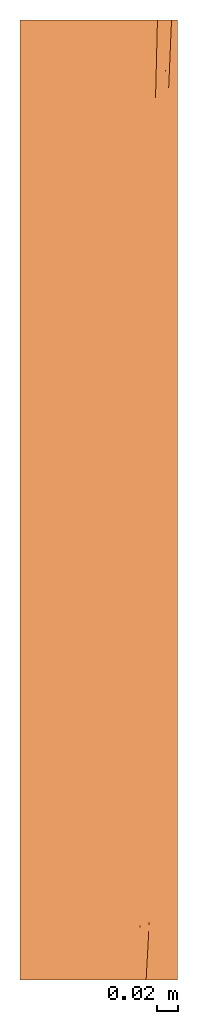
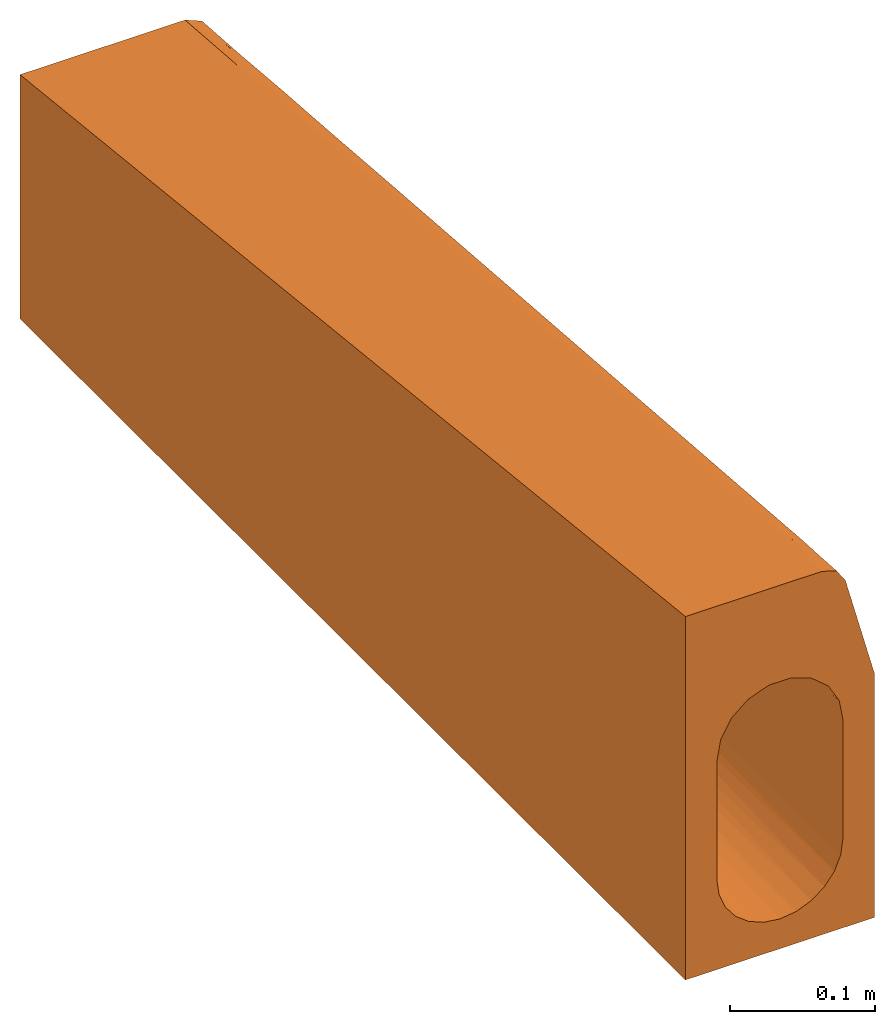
# One storey: 1 proxy.
"""IFC2X3 building model written with IfcOpenShell, lengths in millimetres."""

from ifc_helpers import new_model, entity, si_unit, converted_unit, direction, frame, origin, place, context, subcontext, project, spatial, faceted_brep, source, transform, mapped, material, element, save


model = new_model("IFC2X3")

# Units and contexts
model_context = context("Model", 3, precision=1e-06, world=origin(), true_north=direction((2.0, 6.12303176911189e-17, 1.0)))
context_of_model = context(None, 3, precision=1e-06, world=origin(), true_north=direction((2.0, 6.12303176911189e-17, 1.0)))
body_context = subcontext(model_context, "Body", "Model", "MODEL_VIEW")
ifc_project = project(units=[si_unit("LENGTHUNIT", "METRE", prefix="MILLI"), si_unit("AREAUNIT", "SQUARE_METRE", prefix="MILLI"), si_unit("VOLUMEUNIT", "CUBIC_METRE", prefix="MILLI"), converted_unit("PLANEANGLEUNIT", "DEGREE", entity("IfcRatioMeasure", 0.0174532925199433), si_unit("PLANEANGLEUNIT", "RADIAN"), dimensions=[0, 0, 0, 0, 0, 0, 0]), si_unit("TIMEUNIT", "SECOND")], contexts=[model_context, context_of_model])

# Site, building, storey
site_placement = place(None, origin())
site = spatial("IfcSite", under=ifc_project, at=site_placement, Name="Default", CompositionType="ELEMENT")
building_placement = place(site_placement, origin())
building = spatial("IfcBuilding", under=site, at=building_placement, CompositionType="ELEMENT")
storey_placement = place(building_placement, frame((0.0, 0.0, -300.0)))
storey = spatial("IfcBuildingStorey", under=building, at=storey_placement, Name="T.O. Fnd. Wall", CompositionType="ELEMENT", Elevation=-300.0)

# Proxy
ifc_material = material(Name="ACO Polymer Concrete.")
shared_shape = source(origin(), body_context, "Body", "Brep", [
    faceted_brep([(-75.0, 915.0, -180.0), (-25.0, 915.0, -148.30127018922), (-12.9409522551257, 915.0, -153.296291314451), (-35.3553390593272, 915.0, -140.355339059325), (0.0, 915.0, -155.0), (-43.3012701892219, 915.0, -130.0), (-48.2962913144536, 915.0, -117.940952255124), (-50.0, 915.0, -105.0), (-75.0, 915.0, 25.0), (12.9409522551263, 915.0, -153.296291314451), (75.0, 915.0, -180.0), (25.0, 915.0, -148.301270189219), (35.3553390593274, 915.0, -140.355339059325), (43.3012701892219, 915.0, -130.0), (48.2962913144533, 915.0, -117.940952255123), (50.0, 915.0, -105.0), (-46.9862724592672, 915.0, -87.9035032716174), (-38.3115696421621, 915.0, -72.8717627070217), (-8.68541109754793, 915.0, -55.7601418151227), (-16.8455239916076, 915.0, -58.7310632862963), (56.0, 915.0, 25.0), (-25.0056368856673, 915.0, -61.7019847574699), (-31.6586032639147, 915.0, -67.2868737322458), (8.67375429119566, 915.0, -55.7580870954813), (75.0, 915.0, 6.0), (46.9852169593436, 915.0, -87.9006027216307), (42.6413507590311, 915.0, -80.3777885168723), (38.2974845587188, 915.0, -72.8549743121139), (25.0027248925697, 915.0, -61.7003031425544), (16.8382395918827, 915.0, -58.7291951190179), (59.3587572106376, 915.0, 23.6087572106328), (62.7175144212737, 915.0, 22.2175144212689), (75.0, 0.0, -180.0), (25.0, 0.0, -148.301270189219), (12.9409522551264, 0.0, -153.296291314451), (35.3553390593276, 0.0, -140.355339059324), (0.0, 0.0, -155.0), (50.0, 0.0, -105.0), (48.2962913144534, 0.0, -117.940952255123), (75.0, 0.0, 25.0), (43.3012701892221, 0.0, -130.0), (-12.9409522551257, 0.0, -153.296291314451), (-75.0, 0.0, -180.0), (-25.0, 0.0, -148.30127018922), (-35.3553390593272, 0.0, -140.355339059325), (-43.3012701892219, 0.0, -130.0), (-48.2962913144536, 0.0, -117.940952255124), (-50.0, 0.0, -105.0), (-50.0, 0.0, -5.0), (-75.0, 0.0, 125.0), (50.0, 0.0, -5.0), (46.9852169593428, 0.0, 12.0993972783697), (38.2974845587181, 0.0, 27.1450256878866), (42.6413507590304, 0.0, 19.6222114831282), (51.9784586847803, 0.0, 110.917561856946), (50.2819277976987, 0.0, 113.456599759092), (33.6258679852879, 0.0, 125.0), (8.67375429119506, 0.0, 44.2419129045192), (25.002724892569, 0.0, 38.2996968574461), (-38.3115696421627, 0.0, 27.1282372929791), (-31.6586032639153, 0.0, 32.713126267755), (-25.0056368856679, 0.0, 38.2980152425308), (-46.9862724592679, 0.0, 12.0964967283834), (16.838239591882, 0.0, 41.2708048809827), (-16.8455239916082, 0.0, 41.2689367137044), (-8.68541109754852, 0.0, 44.2398581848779), (73.0181625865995, 836.231110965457, 15.0319560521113), (71.0363253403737, 757.462228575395, 24.063911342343), (50.0, 228.749977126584, -29.9999975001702), (50.0, 457.499954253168, -54.9999950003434), (46.1939766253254, 457.499999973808, -124.134171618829), (6.52630960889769, 663.022798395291, -154.572243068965), (19.1341716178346, 457.499999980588, -151.193976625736), (39.6676670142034, 347.33270495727, -135.4380714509), (39.6676670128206, 663.022798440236, -135.438071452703), (30.4380714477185, 567.667295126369, -144.667667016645), (30.4380714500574, 251.977201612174, -144.66766701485), (-39.6676670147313, 251.977201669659, -135.438071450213), (-30.4380714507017, 347.332704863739, -144.667667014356), (-39.6676670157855, 567.66729518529, -135.438071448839), (-30.4380714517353, 663.022798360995, -144.667667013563), (6.52630961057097, 347.332704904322, -154.572243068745), (49.0392640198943, 307.805136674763, -114.754516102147), (49.1517479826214, 621.55277183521, -114.170914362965), (50.0, 457.5, -105.0), (-6.52630961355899, 567.667295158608, -154.572243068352), (-6.52630961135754, 251.977201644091, -154.572243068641), (-19.1341716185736, 457.499999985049, -151.19397662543), (-46.1939766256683, 457.499999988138, -124.134171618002), (-49.1517479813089, 293.447228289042, -114.170914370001), (-50.0, 457.5, -105.0), (-49.0392640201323, 607.194863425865, -114.754516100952), (-50.0, 686.24998815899, -79.9999987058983), (-50.0, 457.499976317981, -54.9999974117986), (-45.6188229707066, 151.466522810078, -1.08611000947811), (-40.5314068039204, 151.657751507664, 7.70344687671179), (-26.1387748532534, 318.90882077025, 2.77009687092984), (-22.6236938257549, 467.84801880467, -11.5420481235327), (-17.1054992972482, 291.971562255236, 10.073535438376), (-13.7188353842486, 139.904226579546, 27.7910349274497), (-0.00592028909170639, 207.683537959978, 22.3023452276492), (-45.4945220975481, 457.499999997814, -34.2575686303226), (-43.3061058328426, 292.006215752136, -11.9216250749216), (-48.4958178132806, 343.124993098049, -30.3280785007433), (-50.0, 228.75001184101, -30.0000012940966), (-48.8159826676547, 156.464847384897, -11.2833370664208), (-43.3061058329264, 622.993784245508, -48.0951298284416), (-32.147444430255, 707.349732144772, -44.0105274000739), (-39.8007023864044, 438.609878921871, -22.6715985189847), (-25.3674693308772, 643.28302837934, -32.2171337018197), (-17.1054992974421, 623.028437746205, -26.1075438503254), (-23.0848310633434, 162.43984704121, 21.5989060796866), (-11.6387079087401, 459.765322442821, -6.62103534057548), (-32.1474444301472, 207.650267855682, 10.6014359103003), (-48.480687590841, 569.39175700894, -54.9965620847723), (-48.7962684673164, 756.78174927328, -76.8031513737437), (-0.00592028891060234, 707.316462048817, -32.3023459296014), (-11.4445809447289, 757.301188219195, -39.0925615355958), (-21.136028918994, 769.014220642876, -43.7322665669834), (13.9123277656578, 138.301091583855, 27.9106108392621), (8.58844442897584, 254.601193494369, 16.4315966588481), (32.1377640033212, 707.304955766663, -43.9975095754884), (40.5304276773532, 763.475035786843, -59.1604746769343), (45.6178952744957, 763.506975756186, -67.9737094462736), (43.2998575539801, 623.037939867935, -48.0891315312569), (48.4796782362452, 345.4949095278, -30.5229614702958), (48.7969658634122, 158.134389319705, -11.3803314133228), (48.8157785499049, 758.539283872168, -77.0829007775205), (48.4941215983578, 571.874971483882, -55.3213200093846), (45.5871076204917, 150.924354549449, -0.9563146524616), (40.4820866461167, 152.149530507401, 7.71785656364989), (39.7952176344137, 476.335106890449, -26.7873624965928), (43.2998575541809, 291.962060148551, -11.9059752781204), (32.137764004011, 207.695044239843, 10.6046665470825), (25.8175834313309, 615.239692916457, -29.4204785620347), (22.5191408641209, 757.327118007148, -43.1262135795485), (12.9353441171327, 769.015532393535, -40.7476197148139), (-45.5865651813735, 764.128581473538, -67.9719660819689), (23.2584450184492, 163.972412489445, 21.3406150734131), (21.094224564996, 457.500000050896, -9.66752058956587), (17.0983533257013, 291.968941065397, 10.0764229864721), (10.7993315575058, 482.495504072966, -8.91193304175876), (26.1823421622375, 322.161499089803, 2.38786469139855), (32.1377672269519, 457.500000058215, -16.6964242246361), (50.0, 686.249977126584, -79.9999975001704), (45.4922456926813, 457.500000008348, -34.2525765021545), (-32.1474449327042, 457.500000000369, -16.7045461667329), (-40.4806991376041, 762.687916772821, -59.0057362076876), (8.26676737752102, 643.279561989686, -25.9919069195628), (-0.00592208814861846, 457.500000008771, -5.00000035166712), (17.0983533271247, 623.031058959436, -26.1052292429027), (35.5519723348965, 78.7688871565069, 116.391378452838), (52.1338887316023, 63.0458966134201, 107.597465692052), (53.9602959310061, 78.7688823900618, 101.885606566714), (54.5320809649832, 337.103096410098, 83.26796198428), (58.2539181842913, 386.287783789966, 75.0924840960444), (56.2248512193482, 410.153550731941, 75.3669248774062), (55.3899180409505, 718.077788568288, 46.0479049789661), (52.1477913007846, 757.462225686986, 42.2172430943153), (50.2216869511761, 678.693338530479, 50.8258646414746), (65.8908304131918, 580.610878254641, 48.0495233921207), (67.0726506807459, 599.92445715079, 42.1278226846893), (66.9289889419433, 635.472995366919, 43.0244548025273), (71.1069135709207, 796.846673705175, 24.8545550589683), (69.1119382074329, 716.253766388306, 33.6495144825), (55.6926406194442, 196.922223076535, 92.2530895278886), (58.0535050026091, 283.226475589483, 82.1778140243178), (54.6716723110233, 236.306669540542, 91.3862488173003), (57.1335388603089, 783.929985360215, 38.8207670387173), (61.9269278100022, 810.397740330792, 34.4255659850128), (59.2869844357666, 851.917286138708, 31.2690569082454), (61.4321129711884, 421.893895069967, 67.0264374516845), (63.2214213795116, 477.368954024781, 59.7592497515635), (60.5842795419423, 477.119202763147, 65.0164918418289), (52.6756030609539, 532.053585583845, 65.8583849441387), (53.4185826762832, 480.717038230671, 70.6622824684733), (56.1699948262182, 531.461898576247, 64.3192467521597), (64.5550694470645, 776.44697706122, 35.8983010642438), (66.5708123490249, 847.088708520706, 27.9494503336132), (56.9645531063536, 312.161540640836, 82.4490081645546), (59.7696958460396, 350.681667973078, 74.613400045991), (59.905808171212, 315.075549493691, 74.7897384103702), (61.6975187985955, 386.287776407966, 66.6242594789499), (44.0425181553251, 70.8468225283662, 115.149727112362), (48.8442698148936, 118.835351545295, 107.456536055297), (46.5189846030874, 153.55490007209, 105.861837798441), (46.0419590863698, 324.23336442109, 89.0226206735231), (43.7276428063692, 272.272864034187, 94.92627098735), (50.1534560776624, 302.855439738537, 89.5468553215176), (47.941300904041, 403.002249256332, 80.4203491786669), (44.4433739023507, 442.386677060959, 76.6517292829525), (42.5172695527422, 363.617789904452, 85.2603508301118), (49.2932828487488, 470.328580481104, 73.1315590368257), (55.9421333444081, 157.537771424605, 92.8536505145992), (54.0745744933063, 131.139301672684, 99.5118985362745), (56.6642417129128, 470.024345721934, 69.6792337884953), (59.2004323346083, 528.712237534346, 62.3440779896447), (52.4592013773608, 264.269151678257, 91.4922310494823), (43.4832288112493, 167.161108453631, 105.828481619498), (37.1085165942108, 142.424451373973, 109.434486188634), (40.9578996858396, 110.596693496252, 112.338353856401), (39.2156256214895, 51.1642449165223, 118.905210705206), (39.4091015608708, 0.0, 123.036856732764), (51.4612144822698, 104.74082575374, 105.799126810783), (53.0879558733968, 170.951950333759, 98.5272494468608), (59.663148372, 609.330313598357, 54.7678745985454), (63.4334624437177, 594.071443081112, 52.2646302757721), (71.1766862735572, 855.385926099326, 21.6577470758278), (73.1234433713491, 862.97829457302, 16.3383855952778), (72.2175144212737, 915.0, 12.7175144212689), (58.3629209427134, 678.693346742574, 48.9812917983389), (53.7190420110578, 656.505527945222, 52.8135308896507), (54.9639490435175, 607.21803018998, 57.4860204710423), (60.144251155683, 744.545543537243, 41.7044245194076), (66.0762716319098, 915.0, 20.826271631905), (63.86259349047, 866.121897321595, 28.0400424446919), (68.0608015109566, 742.381519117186, 34.569103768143), (68.3947626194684, 799.91258208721, 29.9222532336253), (50.8991880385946, 189.815964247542, 99.4069934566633), (73.6087572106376, 915.0, 9.35875721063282), (65.9094925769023, 678.693347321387, 42.4513956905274), (69.0544880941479, 678.693346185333, 33.0958666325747), (65.2809400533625, 528.712230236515, 50.2933016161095), (63.9528270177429, 528.712234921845, 55.5950084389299), (63.4158424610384, 710.380898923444, 42.708669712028), (60.9708959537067, 662.036257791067, 48.997611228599), (62.2248168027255, 535.879140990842, 58.3115238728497), (46.3694782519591, 521.155564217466, 68.0431077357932), (52.2776280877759, 363.405019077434, 82.5552842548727), (53.156279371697, 423.498763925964, 76.3309959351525), (48.2955826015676, 599.924451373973, 59.4344861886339), (70.8262716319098, 915.0, 16.076271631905), (54.0738956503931, 836.231112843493, 33.6086215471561), (69.4350288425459, 915.0, 19.4350288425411), (40.5911652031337, 284.848902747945, 93.8689723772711), (38.8498408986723, 213.636677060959, 101.651729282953), (48.4914275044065, 236.246522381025, 96.8472116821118), (57.9239707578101, 236.306660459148, 83.8216944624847), (63.489229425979, 457.500003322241, 58.4587805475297), (44.2607943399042, 225.292617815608, 99.6683746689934), (35.895830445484, 0.0, 124.229451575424), (48.302404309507, 56.9166497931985, 113.345077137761), (50.2962552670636, 54.483296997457, 111.227880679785), (42.3007183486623, 0.0, 122.055285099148), (45.1923351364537, 0.0, 121.073713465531), (46.8888660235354, 0.0, 118.534675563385), (48.585396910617, 0.0, 115.995637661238)], [[[0, 1, 2]], [[1, 0, 3]], [[0, 2, 4]], [[5, 3, 0]], [[6, 5, 0]], [[7, 6, 0, 8]], [[4, 9, 10, 0]], [[10, 9, 11]], [[11, 12, 10]], [[13, 14, 10]], [[12, 13, 10]], [[10, 14, 15]], [[16, 7, 8]], [[17, 16, 8]], [[18, 19, 8, 20]], [[8, 21, 22, 17]], [[20, 23, 18]], [[24, 25, 26, 27]], [[15, 25, 24, 10]], [[20, 24, 28, 29]], [[24, 20, 30, 31]], [[28, 24, 27]], [[32, 33, 34]], [[33, 32, 35]], [[32, 34, 36]], [[37, 38, 32, 39]], [[40, 35, 32]], [[38, 40, 32]], [[36, 41, 42, 32]], [[42, 43, 44]], [[43, 42, 41]], [[44, 45, 42]], [[46, 47, 42]], [[45, 46, 42]], [[42, 47, 48, 49]], [[50, 39, 51]], [[39, 50, 37]], [[39, 52, 53, 51]], [[54, 55, 56, 57]], [[39, 54, 58, 52]], [[49, 59, 60, 61]], [[48, 62, 49]], [[59, 49, 62]], [[54, 57, 63, 58]], [[49, 61, 64, 65]], [[65, 57, 56, 49]], [[10, 32, 42, 0]], [[39, 24, 66, 67]], [[37, 50, 68, 69]], [[40, 38, 70]], [[9, 71, 72]], [[73, 74, 75, 76]], [[70, 73, 40]], [[34, 33, 72]], [[77, 44, 78]], [[3, 79, 80]], [[75, 72, 76]], [[13, 74, 70]], [[34, 72, 81]], [[82, 70, 38]], [[83, 84, 15]], [[37, 82, 38]], [[73, 35, 40]], [[12, 11, 75]], [[70, 14, 13]], [[4, 2, 85]], [[74, 73, 70]], [[72, 75, 11]], [[78, 44, 43]], [[72, 11, 9]], [[81, 36, 34]], [[71, 81, 72]], [[81, 71, 85, 86]], [[43, 41, 87]], [[86, 36, 81]], [[4, 85, 71]], [[87, 78, 43]], [[46, 45, 88]], [[77, 45, 44]], [[76, 35, 73]], [[79, 88, 77]], [[3, 80, 1]], [[89, 90, 47]], [[85, 2, 87]], [[87, 2, 1]], [[76, 33, 35]], [[3, 5, 79]], [[83, 82, 84]], [[80, 78, 87]], [[4, 71, 9]], [[79, 5, 88]], [[6, 88, 5]], [[86, 41, 36]], [[6, 91, 88]], [[12, 74, 13]], [[12, 75, 74]], [[86, 85, 87]], [[89, 91, 90]], [[6, 7, 91]], [[33, 76, 72]], [[1, 80, 87]], [[78, 80, 79, 77]], [[41, 86, 87]], [[45, 77, 88]], [[14, 70, 83]], [[84, 82, 37]], [[82, 83, 70]], [[14, 83, 15]], [[46, 88, 89]], [[90, 91, 7]], [[91, 89, 88]], [[46, 89, 47]], [[47, 90, 92, 93]], [[59, 94, 95]], [[96, 97, 98]], [[99, 98, 100]], [[101, 102, 103]], [[104, 103, 105]], [[106, 107, 108]], [[97, 109, 110]], [[111, 98, 99]], [[97, 110, 112]], [[102, 95, 94]], [[113, 111, 60]], [[114, 92, 115]], [[114, 103, 93]], [[106, 108, 101]], [[110, 116, 112]], [[117, 118, 19]], [[18, 23, 116]], [[119, 100, 120]], [[27, 121, 28]], [[105, 103, 94]], [[122, 123, 124]], [[19, 118, 21]], [[125, 68, 126]], [[127, 128, 123]], [[129, 53, 130]], [[131, 132, 133]], [[21, 118, 107]], [[121, 134, 135]], [[29, 136, 23]], [[133, 52, 58]], [[122, 26, 123]], [[17, 137, 16]], [[63, 119, 138]], [[65, 100, 57]], [[139, 140, 141]], [[142, 133, 138]], [[139, 134, 143]], [[135, 136, 29]], [[125, 128, 69]], [[144, 128, 127]], [[132, 131, 145]], [[145, 124, 128]], [[93, 103, 104]], [[105, 62, 48]], [[106, 101, 114]], [[137, 115, 16]], [[69, 128, 144]], [[92, 7, 115]], [[114, 93, 92]], [[127, 25, 15]], [[132, 145, 125]], [[129, 126, 51]], [[98, 111, 96]], [[68, 50, 126]], [[125, 69, 68]], [[146, 113, 108, 107]], [[137, 17, 147]], [[110, 109, 118]], [[18, 117, 19]], [[148, 141, 149]], [[119, 57, 100]], [[112, 149, 100]], [[28, 135, 29]], [[131, 143, 121]], [[114, 101, 103]], [[142, 139, 143]], [[104, 105, 48]], [[62, 105, 94]], [[62, 94, 59]], [[102, 94, 103]], [[22, 21, 107, 17]], [[95, 102, 113]], [[106, 114, 137]], [[16, 115, 7]], [[115, 137, 114]], [[147, 106, 137]], [[147, 107, 106]], [[107, 147, 17]], [[144, 127, 15]], [[25, 127, 123]], [[122, 27, 26]], [[124, 123, 128]], [[122, 121, 27]], [[122, 124, 121]], [[26, 25, 123]], [[132, 125, 129]], [[51, 126, 50]], [[126, 129, 125]], [[130, 132, 129]], [[130, 133, 132]], [[130, 52, 133]], [[52, 130, 53]], [[129, 51, 53]], [[102, 101, 108]], [[102, 108, 113]], [[125, 145, 128]], [[124, 145, 131]], [[124, 131, 121]], [[133, 143, 131]], [[118, 109, 107]], [[117, 110, 118]], [[117, 116, 110]], [[117, 18, 116]], [[109, 146, 107]], [[146, 109, 97]], [[113, 146, 96]], [[116, 149, 112]], [[112, 98, 97]], [[98, 112, 100]], [[97, 96, 146]], [[60, 59, 113]], [[96, 111, 113]], [[99, 64, 111]], [[136, 135, 150]], [[65, 99, 100]], [[61, 111, 64]], [[99, 65, 64]], [[136, 116, 23]], [[116, 136, 148]], [[150, 135, 134]], [[135, 28, 121]], [[150, 134, 139]], [[134, 121, 143]], [[150, 139, 141]], [[142, 140, 139]], [[136, 150, 148]], [[120, 100, 149]], [[116, 148, 149]], [[148, 150, 141]], [[140, 142, 138]], [[133, 142, 143]], [[140, 138, 119]], [[58, 138, 133]], [[120, 140, 119]], [[138, 58, 63]], [[120, 141, 140]], [[141, 120, 149]], [[63, 57, 119]], [[95, 113, 59]], [[60, 111, 61]], [[8, 0, 42, 49]], [[8, 49, 56, 151]], [[152, 55, 153]], [[154, 155, 156]], [[157, 158, 159]], [[160, 161, 162]], [[67, 163, 164]], [[165, 166, 167]], [[168, 169, 170]], [[171, 172, 173]], [[174, 175, 176]], [[169, 177, 178]], [[154, 179, 155]], [[180, 181, 182]], [[183, 184, 185]], [[186, 187, 188]], [[189, 190, 191]], [[192, 175, 174]], [[193, 165, 194]], [[176, 195, 196]], [[179, 197, 167]], [[198, 199, 200]], [[183, 201, 202]], [[184, 203, 204]], [[205, 196, 206]], [[207, 208, 209]], [[210, 157, 211]], [[157, 168, 158]], [[205, 210, 212]], [[168, 213, 169]], [[169, 213, 177]], [[178, 214, 215]], [[216, 163, 217]], [[66, 163, 67]], [[218, 167, 197]], [[153, 194, 152]], [[217, 163, 207]], [[207, 178, 217]], [[208, 24, 219, 209]], [[164, 216, 220]], [[162, 164, 220]], [[162, 221, 164]], [[220, 206, 162]], [[172, 222, 223]], [[223, 160, 206]], [[196, 195, 173]], [[224, 225, 220]], [[196, 173, 226]], [[225, 206, 220]], [[212, 174, 176]], [[174, 227, 192]], [[228, 189, 186]], [[189, 192, 190]], [[156, 229, 228]], [[221, 162, 161]], [[221, 67, 164]], [[230, 174, 212]], [[211, 157, 159]], [[212, 211, 230]], [[157, 210, 213]], [[224, 213, 210]], [[213, 224, 177]], [[225, 224, 210]], [[224, 220, 216]], [[216, 177, 224]], [[231, 178, 207]], [[217, 178, 177]], [[178, 215, 169]], [[213, 168, 157]], [[215, 170, 169]], [[232, 170, 30]], [[170, 232, 168]], [[232, 158, 168]], [[30, 20, 232]], [[231, 207, 209]], [[233, 178, 231]], [[208, 163, 66]], [[163, 208, 207]], [[24, 208, 66]], [[230, 211, 159]], [[210, 211, 212]], [[187, 186, 234]], [[234, 186, 191]], [[186, 188, 228]], [[234, 235, 187]], [[236, 197, 188]], [[186, 189, 191]], [[229, 175, 192]], [[229, 192, 189]], [[195, 175, 229]], [[227, 174, 230]], [[227, 190, 192]], [[175, 195, 176]], [[229, 156, 195]], [[173, 223, 226]], [[156, 173, 195]], [[180, 155, 179]], [[154, 228, 188]], [[173, 156, 155]], [[197, 154, 188]], [[154, 197, 179]], [[165, 193, 237]], [[238, 171, 182]], [[179, 166, 180]], [[172, 171, 238]], [[173, 155, 171]], [[236, 188, 239]], [[197, 236, 218]], [[184, 218, 185]], [[167, 204, 165]], [[182, 171, 180]], [[180, 166, 181]], [[155, 180, 171]], [[165, 237, 166]], [[167, 218, 204]], [[166, 179, 167]], [[237, 181, 166]], [[240, 202, 201]], [[203, 184, 241]], [[151, 56, 240]], [[152, 203, 242]], [[243, 244, 183, 202]], [[151, 200, 199]], [[183, 185, 200]], [[198, 200, 185]], [[183, 244, 241]], [[183, 241, 184]], [[194, 153, 193]], [[241, 244, 245]], [[196, 205, 176]], [[212, 176, 205]], [[198, 236, 239]], [[218, 236, 185]], [[184, 204, 218]], [[194, 204, 203]], [[204, 194, 165]], [[194, 203, 152]], [[242, 203, 241]], [[55, 54, 153]], [[156, 228, 154]], [[228, 229, 189]], [[201, 183, 200]], [[240, 201, 151]], [[151, 201, 200]], [[163, 216, 164]], [[216, 217, 177]], [[206, 160, 162]], [[160, 222, 161]], [[222, 160, 223]], [[210, 205, 225]], [[225, 205, 206]], [[170, 31, 30]], [[170, 215, 31]], [[214, 178, 233]], [[214, 31, 215]], [[187, 235, 239]], [[188, 187, 239]], [[223, 206, 226]], [[198, 235, 199]], [[196, 226, 206]], [[222, 172, 238]], [[173, 172, 223]], [[236, 198, 185]], [[198, 239, 235]], [[245, 242, 241]], [[242, 245, 246]], [[246, 152, 242]], [[152, 246, 55]], [[24, 39, 32, 10]], [[8, 19, 21]], [[20, 29, 23]], [[24, 31, 214]], [[214, 233, 231, 209]], [[214, 209, 219, 24]], [[56, 55, 246, 245]], [[245, 244, 243, 202]], [[245, 202, 240, 56]], [[39, 67, 221, 161]], [[39, 161, 222, 238]], [[39, 238, 182, 181]], [[39, 181, 237, 193]], [[39, 193, 153, 54]], [[37, 69, 144]], [[144, 15, 84, 37]], [[47, 93, 104, 48]], [[92, 90, 7]], [[8, 151, 199, 235]], [[8, 235, 234, 191]], [[8, 191, 190, 227]], [[8, 227, 230, 159]], [[8, 159, 158, 232]], [[8, 232, 20]]]),
])
proxy_placement = place(storey_placement, frame((-4264.21056397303, -6896.5502196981, 300.0)))
element("IfcBuildingElementProxy", 1, at=proxy_placement, inside=storey, material=ifc_material, Name="Civil-Drainage-Channel-ACO-KerbDrain-HB305 - PART 1:7966 - LH drop kerb - 915mm LG:7966 - LH drop kerb - 915mm LG", ObjectType="7966 - LH drop kerb - 915mm LG", CompositionType="ELEMENT", context=body_context, shape_type="MappedRepresentation", body=[
    mapped(shared_shape, transform((0.0, 0.0, 0.0), scale=1.0)),
])

save(model, "model.ifc")
